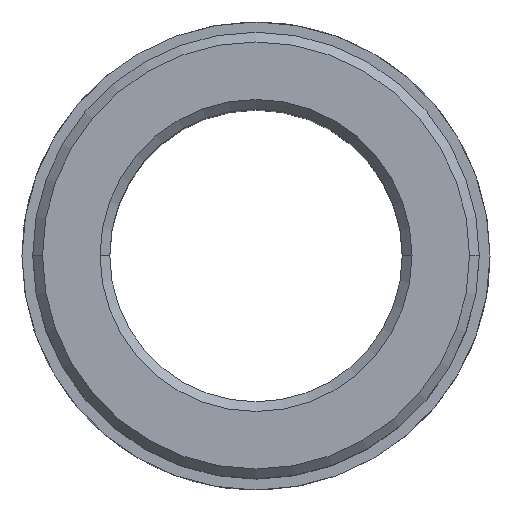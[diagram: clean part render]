
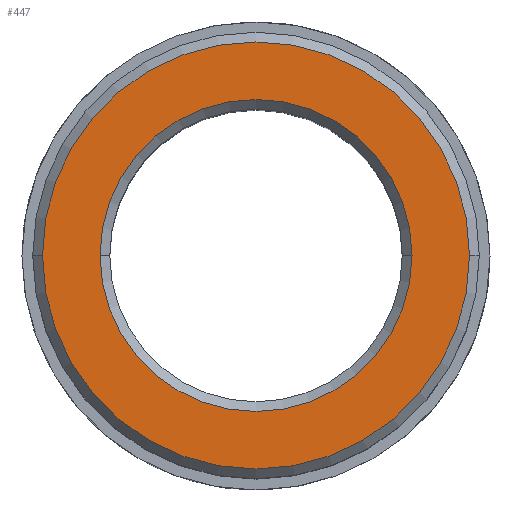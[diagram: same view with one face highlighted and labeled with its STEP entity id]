
A CAD part, top view. The second image highlights one B-rep face of the part: STEP entity #447.
In plain terms, the highlighted planar face has unit normal (0, 0, 1).
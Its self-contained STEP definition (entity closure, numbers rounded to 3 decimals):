
#329=CARTESIAN_POINT('Axis2P3D Location',(0.,0.,36.)) ;
#333=CARTESIAN_POINT('Vertex',(16.,0.,36.)) ;
#335=CARTESIAN_POINT('Vertex',(-16.,0.,36.)) ;
#408=CARTESIAN_POINT('Axis2P3D Location',(0.,0.,36.)) ;
#420=CARTESIAN_POINT('Axis2P3D Location',(16.,0.,36.)) ;
#425=CARTESIAN_POINT('Axis2P3D Location',(0.,0.,36.)) ;
#429=CARTESIAN_POINT('Vertex',(21.9,0.,36.)) ;
#431=CARTESIAN_POINT('Vertex',(-21.9,0.,36.)) ;
#434=CARTESIAN_POINT('Axis2P3D Location',(0.,0.,36.)) ;
#330=DIRECTION('Axis2P3D Direction',(0.,-0.,1.)) ;
#409=DIRECTION('Axis2P3D Direction',(0.,-0.,1.)) ;
#421=DIRECTION('Axis2P3D Direction',(0.,-0.,1.)) ;
#422=DIRECTION('Axis2P3D XDirection',(1.,0.,0.)) ;
#426=DIRECTION('Axis2P3D Direction',(0.,-0.,1.)) ;
#435=DIRECTION('Axis2P3D Direction',(0.,-0.,1.)) ;
#331=AXIS2_PLACEMENT_3D('Circle Axis2P3D',#329,#330,$) ;
#410=AXIS2_PLACEMENT_3D('Circle Axis2P3D',#408,#409,$) ;
#423=AXIS2_PLACEMENT_3D('Plane Axis2P3D',#420,#421,#422) ;
#427=AXIS2_PLACEMENT_3D('Circle Axis2P3D',#425,#426,$) ;
#436=AXIS2_PLACEMENT_3D('Circle Axis2P3D',#434,#435,$) ;
#440=ORIENTED_EDGE('',*,*,#433,.T.) ;
#441=ORIENTED_EDGE('',*,*,#438,.T.) ;
#444=ORIENTED_EDGE('',*,*,#412,.F.) ;
#445=ORIENTED_EDGE('',*,*,#337,.F.) ;
#446=FACE_BOUND('',#443,.T.) ;
#447=ADVANCED_FACE('735-24',(#442,#446),#424,.T.) ;
#332=CIRCLE('generated circle',#331,16.) ;
#411=CIRCLE('generated circle',#410,16.) ;
#428=CIRCLE('generated circle',#427,21.9) ;
#437=CIRCLE('generated circle',#436,21.9) ;
#337=EDGE_CURVE('',#334,#336,#332,.T.) ;
#412=EDGE_CURVE('',#336,#334,#411,.T.) ;
#433=EDGE_CURVE('',#430,#432,#428,.T.) ;
#438=EDGE_CURVE('',#432,#430,#437,.T.) ;
#439=EDGE_LOOP('',(#440,#441)) ;
#443=EDGE_LOOP('',(#444,#445)) ;
#442=FACE_OUTER_BOUND('',#439,.T.) ;
#424=PLANE('Plane',#423) ;
#334=VERTEX_POINT('',#333) ;
#336=VERTEX_POINT('',#335) ;
#430=VERTEX_POINT('',#429) ;
#432=VERTEX_POINT('',#431) ;
